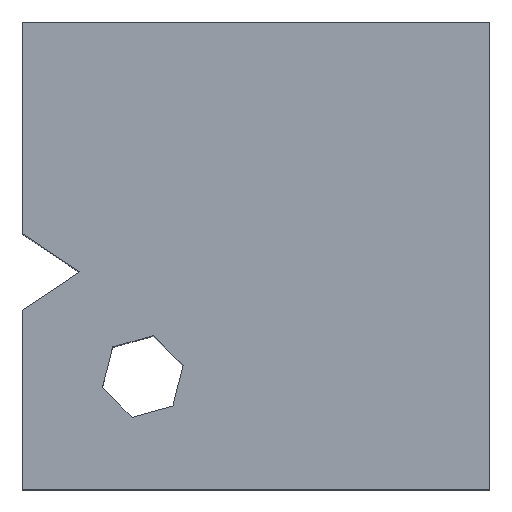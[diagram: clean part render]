
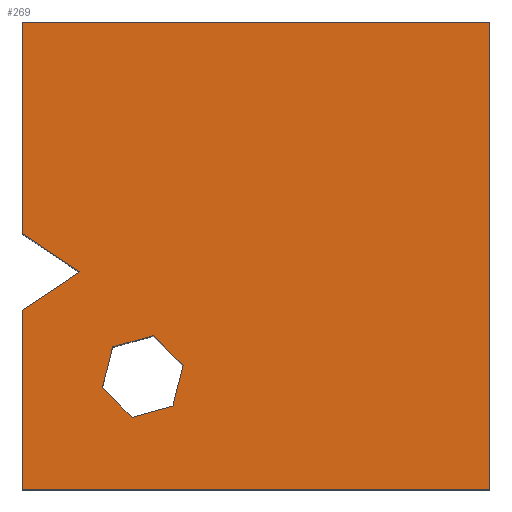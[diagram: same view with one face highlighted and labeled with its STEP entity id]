
A CAD part, top view. The second image highlights one B-rep face of the part: STEP entity #269.
In plain terms, the highlighted planar face has unit normal (0, 0, 1).
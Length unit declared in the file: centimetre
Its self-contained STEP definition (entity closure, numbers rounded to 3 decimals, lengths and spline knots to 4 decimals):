
#4 = VECTOR ( 'NONE', #492, 100. ) ;
#5 = CARTESIAN_POINT ( 'NONE',  ( 321.9391, 178.1975, 1000. ) ) ;
#8 = CARTESIAN_POINT ( 'NONE',  ( 0., 1000., 1000. ) ) ;
#22 = LINE ( 'NONE', #490, #569 ) ;
#26 = LINE ( 'NONE', #568, #87 ) ;
#29 = CARTESIAN_POINT ( 'NONE',  ( 1000., 1000., 1000. ) ) ;
#35 = FACE_BOUND ( 'NONE', #100, .T. ) ;
#37 = VECTOR ( 'NONE', #576, 100. ) ;
#40 = ORIENTED_EDGE ( 'NONE', *, *, #543, .T. ) ;
#45 = LINE ( 'NONE', #234, #154 ) ;
#47 = VERTEX_POINT ( 'NONE', #48 ) ;
#48 = CARTESIAN_POINT ( 'NONE',  ( 0., 383.0709, 1000. ) ) ;
#49 = VERTEX_POINT ( 'NONE', #365 ) ;
#50 = ORIENTED_EDGE ( 'NONE', *, *, #228, .T. ) ;
#51 = VERTEX_POINT ( 'NONE', #553 ) ;
#54 = ORIENTED_EDGE ( 'NONE', *, *, #587, .T. ) ;
#55 = LINE ( 'NONE', #572, #384 ) ;
#72 = CARTESIAN_POINT ( 'NONE',  ( 0., 1000., 1000. ) ) ;
#79 = CARTESIAN_POINT ( 'NONE',  ( 321.9391, 178.1975, 1000. ) ) ;
#83 = VERTEX_POINT ( 'NONE', #93 ) ;
#85 = VERTEX_POINT ( 'NONE', #280 ) ;
#87 = VECTOR ( 'NONE', #153, 100. ) ;
#88 = VECTOR ( 'NONE', #199, 100. ) ;
#92 = EDGE_CURVE ( 'NONE', #49, #501, #45, .T. ) ;
#93 = CARTESIAN_POINT ( 'NONE',  ( 280.3289, 328.7879, 1000. ) ) ;
#100 = EDGE_LOOP ( 'NONE', ( #562, #598, #499, #40, #360, #236 ) ) ;
#107 = DIRECTION ( 'NONE',  ( 0., -1., 0. ) ) ;
#111 = EDGE_CURVE ( 'NONE', #47, #363, #208, .T. ) ;
#113 = LINE ( 'NONE', #282, #326 ) ;
#116 = VECTOR ( 'NONE', #107, 100. ) ;
#126 = DIRECTION ( 'NONE',  ( -0.247, -0.969, 0. ) ) ;
#127 = PLANE ( 'NONE',  #276 ) ;
#136 = EDGE_LOOP ( 'NONE', ( #601, #410, #54, #563, #603, #50, #459 ) ) ;
#144 = VECTOR ( 'NONE', #175, 100. ) ;
#153 = DIRECTION ( 'NONE',  ( 0., -1., 0. ) ) ;
#154 = VECTOR ( 'NONE', #232, 100. ) ;
#159 = LINE ( 'NONE', #5, #191 ) ;
#168 = DIRECTION ( 'NONE',  ( 1., 0., 0. ) ) ;
#171 = FACE_OUTER_BOUND ( 'NONE', #136, .T. ) ;
#175 = DIRECTION ( 'NONE',  ( -0.83, -0.558, 0. ) ) ;
#177 = LINE ( 'NONE', #355, #144 ) ;
#178 = VERTEX_POINT ( 'NONE', #573 ) ;
#191 = VECTOR ( 'NONE', #383, 100. ) ;
#199 = DIRECTION ( 'NONE',  ( -1., 0., 0. ) ) ;
#208 = LINE ( 'NONE', #538, #116 ) ;
#210 = LINE ( 'NONE', #541, #267 ) ;
#216 = DIRECTION ( 'NONE',  ( 0.964, 0.266, 0. ) ) ;
#224 = CARTESIAN_POINT ( 'NONE',  ( 1000., 1000., 1000. ) ) ;
#228 = EDGE_CURVE ( 'NONE', #502, #283, #26, .T. ) ;
#230 = VERTEX_POINT ( 'NONE', #288 ) ;
#232 = DIRECTION ( 'NONE',  ( -0.707, 0.707, 0. ) ) ;
#234 = CARTESIAN_POINT ( 'NONE',  ( 234.9957, 154.1739, 1000. ) ) ;
#236 = ORIENTED_EDGE ( 'NONE', *, *, #92, .T. ) ;
#240 = DIRECTION ( 'NONE',  ( 0.707, -0.707, 0. ) ) ;
#247 = CARTESIAN_POINT ( 'NONE',  ( 0., 0., 1000. ) ) ;
#251 = CARTESIAN_POINT ( 'NONE',  ( 122.1816, 465.2196, 1000. ) ) ;
#256 = LINE ( 'NONE', #300, #310 ) ;
#267 = VECTOR ( 'NONE', #126, 100. ) ;
#269 = ADVANCED_FACE ( 'NONE', ( #171, #35 ), #127, .T. ) ;
#276 = AXIS2_PLACEMENT_3D ( 'NONE', #452, #455, #168 ) ;
#279 = VERTEX_POINT ( 'NONE', #224 ) ;
#280 = CARTESIAN_POINT ( 'NONE',  ( 122.1816, 465.2196, 1000. ) ) ;
#282 = CARTESIAN_POINT ( 'NONE',  ( 171.2156, 217.954, 1000. ) ) ;
#283 = VERTEX_POINT ( 'NONE', #408 ) ;
#288 = CARTESIAN_POINT ( 'NONE',  ( 1000., 0., 1000. ) ) ;
#300 = CARTESIAN_POINT ( 'NONE',  ( 193.3855, 304.7642, 1000. ) ) ;
#308 = EDGE_CURVE ( 'NONE', #85, #47, #177, .T. ) ;
#310 = VECTOR ( 'NONE', #216, 100. ) ;
#311 = LINE ( 'NONE', #29, #4 ) ;
#321 = VERTEX_POINT ( 'NONE', #79 ) ;
#326 = VECTOR ( 'NONE', #391, 100. ) ;
#345 = CARTESIAN_POINT ( 'NONE',  ( 171.2156, 217.954, 1000. ) ) ;
#355 = CARTESIAN_POINT ( 'NONE',  ( 0., 383.0709, 1000. ) ) ;
#360 = ORIENTED_EDGE ( 'NONE', *, *, #432, .T. ) ;
#363 = VERTEX_POINT ( 'NONE', #247 ) ;
#365 = CARTESIAN_POINT ( 'NONE',  ( 234.9957, 154.1739, 1000. ) ) ;
#382 = EDGE_CURVE ( 'NONE', #501, #51, #113, .T. ) ;
#383 = DIRECTION ( 'NONE',  ( -0.964, -0.266, 0. ) ) ;
#384 = VECTOR ( 'NONE', #240, 100. ) ;
#387 = EDGE_CURVE ( 'NONE', #279, #502, #471, .T. ) ;
#391 = DIRECTION ( 'NONE',  ( 0.247, 0.969, 0. ) ) ;
#403 = EDGE_CURVE ( 'NONE', #83, #178, #55, .T. ) ;
#408 = CARTESIAN_POINT ( 'NONE',  ( 0., 547.3683, 1000. ) ) ;
#410 = ORIENTED_EDGE ( 'NONE', *, *, #111, .T. ) ;
#412 = EDGE_CURVE ( 'NONE', #283, #85, #525, .T. ) ;
#432 = EDGE_CURVE ( 'NONE', #321, #49, #159, .T. ) ;
#452 = CARTESIAN_POINT ( 'NONE',  ( 0., 0., 1000. ) ) ;
#455 = DIRECTION ( 'NONE',  ( 0., 0., 1. ) ) ;
#459 = ORIENTED_EDGE ( 'NONE', *, *, #412, .T. ) ;
#471 = LINE ( 'NONE', #8, #88 ) ;
#490 = CARTESIAN_POINT ( 'NONE',  ( 0., 0., 1000. ) ) ;
#492 = DIRECTION ( 'NONE',  ( 0., 1., 0. ) ) ;
#499 = ORIENTED_EDGE ( 'NONE', *, *, #403, .T. ) ;
#501 = VERTEX_POINT ( 'NONE', #345 ) ;
#502 = VERTEX_POINT ( 'NONE', #72 ) ;
#525 = LINE ( 'NONE', #251, #37 ) ;
#538 = CARTESIAN_POINT ( 'NONE',  ( 0., 1000., 1000. ) ) ;
#541 = CARTESIAN_POINT ( 'NONE',  ( 344.109, 265.0078, 1000. ) ) ;
#543 = EDGE_CURVE ( 'NONE', #178, #321, #210, .T. ) ;
#551 = EDGE_CURVE ( 'NONE', #230, #279, #311, .T. ) ;
#553 = CARTESIAN_POINT ( 'NONE',  ( 193.3855, 304.7642, 1000. ) ) ;
#562 = ORIENTED_EDGE ( 'NONE', *, *, #382, .T. ) ;
#563 = ORIENTED_EDGE ( 'NONE', *, *, #551, .T. ) ;
#568 = CARTESIAN_POINT ( 'NONE',  ( 0., 1000., 1000. ) ) ;
#569 = VECTOR ( 'NONE', #584, 100. ) ;
#572 = CARTESIAN_POINT ( 'NONE',  ( 280.3289, 328.7879, 1000. ) ) ;
#573 = CARTESIAN_POINT ( 'NONE',  ( 344.109, 265.0078, 1000. ) ) ;
#576 = DIRECTION ( 'NONE',  ( 0.83, -0.558, 0. ) ) ;
#584 = DIRECTION ( 'NONE',  ( 1., 0., 0. ) ) ;
#587 = EDGE_CURVE ( 'NONE', #363, #230, #22, .T. ) ;
#595 = EDGE_CURVE ( 'NONE', #51, #83, #256, .T. ) ;
#598 = ORIENTED_EDGE ( 'NONE', *, *, #595, .T. ) ;
#601 = ORIENTED_EDGE ( 'NONE', *, *, #308, .T. ) ;
#603 = ORIENTED_EDGE ( 'NONE', *, *, #387, .T. ) ;
